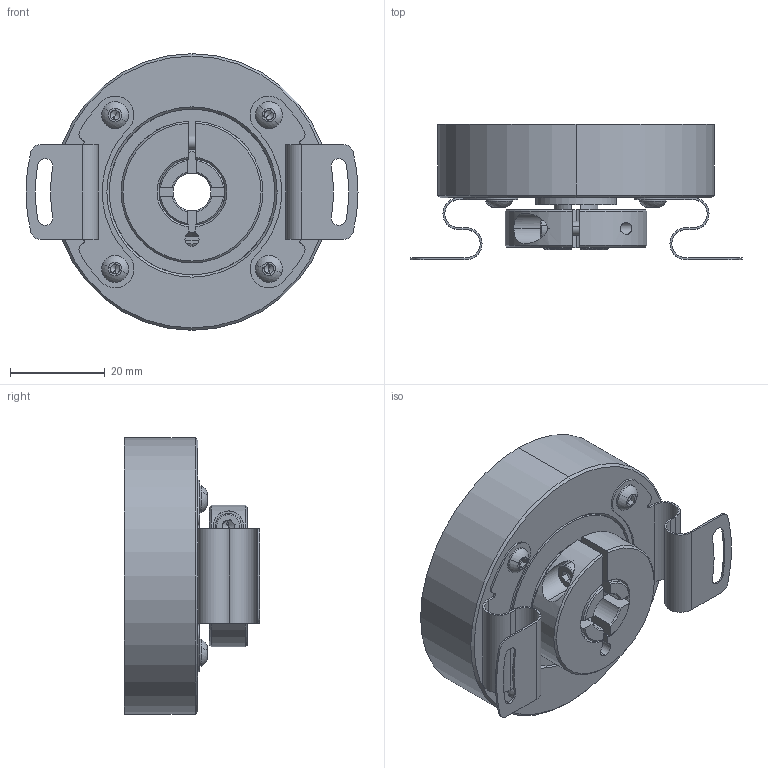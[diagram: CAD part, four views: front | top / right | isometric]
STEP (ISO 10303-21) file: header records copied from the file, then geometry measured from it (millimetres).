
FILE_DESCRIPTION (( 'STEP AP214' ), '1' );
FILE_NAME ('drawing-ucd-h8ss-q5b-n.STEP', '2016-11-08T09:20:15', ( '' ), ( '' ), 'SwSTEP 2.0', 'SolidWorks 2015', '' );
FILE_SCHEMA (( 'AUTOMOTIVE_DESIGN' ));
Length unit declared in the file: millimetre
Products named in the file (1): drawing-ucd-h8ss-q5b-n
Bounding box: 70.2 x 28.6 x 58.5 mm (x, y, z)
Volume: 42929.6 mm3; surface area: 28420.4 mm2
Topology: 29 solids, 29 shells, 702 faces, 1714 edges, 1050 vertices
Faces by surface type: plane 265, cylinder 163, bspline 150, cone 104, torus 12, sphere 8
Entity records: 34206 total; most frequent: CARTESIAN_POINT 10505, ORIENTED_EDGE 3300, DIRECTION 3074, EDGE_CURVE 1650, AXIS2_PLACEMENT_3D 1125, VERTEX_POINT 1050, VECTOR 824, LINE 824
